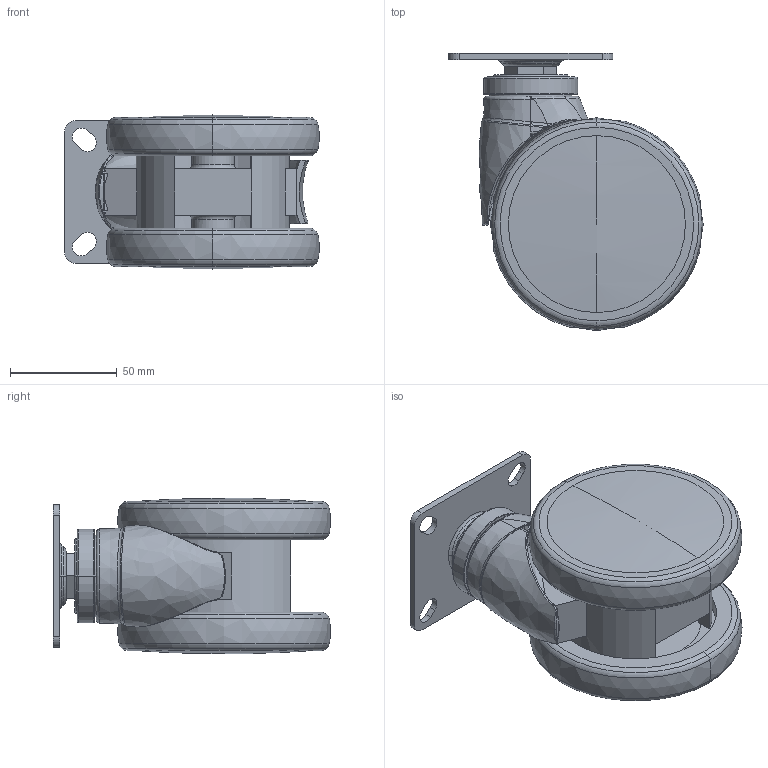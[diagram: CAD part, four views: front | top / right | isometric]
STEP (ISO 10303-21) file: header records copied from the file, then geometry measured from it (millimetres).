
FILE_DESCRIPTION((''),'2;1');
FILE_NAME('ASM0004_ASM','2022-09-21T',('lenovo'),(''),'PRO/ENGINEER BY PARAMETRIC TECHNOLOGY CORPORATION, 2010280','PRO/ENGINEER BY PARAMETRIC TECHNOLOGY CORPORATION, 2010280','');
FILE_SCHEMA(('CONFIG_CONTROL_DESIGN'));
Length unit declared in the file: millimetre
Products named in the file (12): E1904-701_14; MANIFOLD_SOLID_BREP_93_1; MANIFOLD_SOLID_BREP_94_1; MANIFOLD_SOLID_BREP_95_2; ASM0003_ASM_1_ASM; LUNZI_ASM_1_ASM; E1904-251_3; E1914-052_2; E1904-891_1; 510-01A_2; E19014-57_ASM_1_ASM; ASM0004_ASM
Assembly tree (13 placements, depth 5):
  ASM0004_ASM
    E19014-57_ASM_1_ASM
      E1904-701_14
      LUNZI_ASM_1_ASM  x2
        ASM0003_ASM_1_ASM
          MANIFOLD_SOLID_BREP_93_1
          MANIFOLD_SOLID_BREP_94_1
          MANIFOLD_SOLID_BREP_95_2
      E1904-251_3
      E1914-052_2
      E1904-891_1  x2
      510-01A_2
Bounding box: 119.43 x 130.11 x 73.09 mm (x, y, z)
Volume: 203862.7 mm3; surface area: 162329.4 mm2
Topology: 11 solids, 12 shells, 659 faces, 1689 edges, 1079 vertices
Faces by surface type: plane 208, torus 200, cylinder 118, bspline 90, cone 33, sphere 10
Entity records: 20782 total; most frequent: CARTESIAN_POINT 9293, ORIENTED_EDGE 2420, DIRECTION 2330, EDGE_CURVE 1213, AXIS2_PLACEMENT_3D 967, VERTEX_POINT 784, CIRCLE 543, EDGE_LOOP 525
